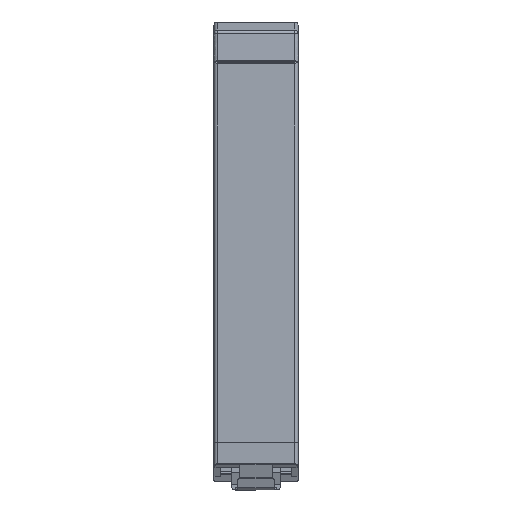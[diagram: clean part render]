
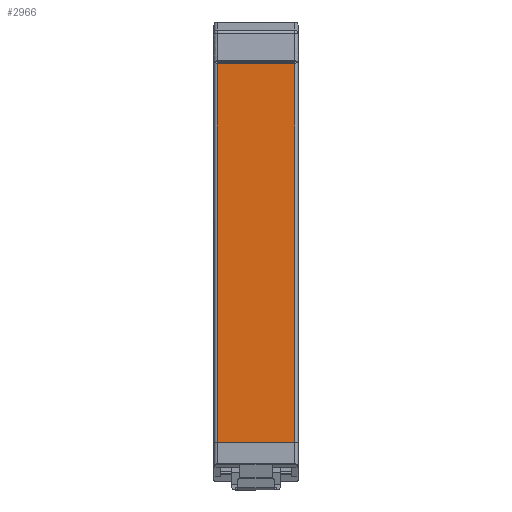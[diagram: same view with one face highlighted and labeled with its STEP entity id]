
A CAD part, front view. The second image highlights one B-rep face of the part: STEP entity #2966.
In plain terms, the highlighted planar face has unit normal (0, -1, 0).
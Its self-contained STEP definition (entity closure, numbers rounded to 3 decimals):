
#63 = ORIENTED_EDGE ( 'NONE', *, *, #3908, .T. ) ;
#213 = VERTEX_POINT ( 'NONE', #6045 ) ;
#306 = CARTESIAN_POINT ( 'NONE',  ( -12.5, -100., 0.8 ) ) ;
#680 = VERTEX_POINT ( 'NONE', #9788 ) ;
#758 = ORIENTED_EDGE ( 'NONE', *, *, #1590, .F. ) ;
#924 = CARTESIAN_POINT ( 'NONE',  ( -11.5, -100., 127.3 ) ) ;
#1590 = EDGE_CURVE ( 'NONE', #10036, #680, #2811, .T. ) ;
#2477 = AXIS2_PLACEMENT_3D ( 'NONE', #306, #3321, #4054 ) ;
#2806 = VECTOR ( 'NONE', #9713, 1000. ) ;
#2811 = LINE ( 'NONE', #8333, #8925 ) ;
#2966 = ADVANCED_FACE ( 'NONE', ( #4981 ), #9844, .T. ) ;
#3058 = LINE ( 'NONE', #6734, #2806 ) ;
#3121 = ORIENTED_EDGE ( 'NONE', *, *, #11565, .T. ) ;
#3321 = DIRECTION ( 'NONE',  ( 0., -1., 0. ) ) ;
#3906 = EDGE_LOOP ( 'NONE', ( #758, #63, #3121, #9774 ) ) ;
#3908 = EDGE_CURVE ( 'NONE', #10036, #10028, #9593, .T. ) ;
#4054 = DIRECTION ( 'NONE',  ( 0., 0., -1. ) ) ;
#4981 = FACE_OUTER_BOUND ( 'NONE', #3906, .T. ) ;
#5580 = LINE ( 'NONE', #924, #7938 ) ;
#5944 = DIRECTION ( 'NONE',  ( -1., 0., 0. ) ) ;
#6045 = CARTESIAN_POINT ( 'NONE',  ( -11.5, -100., 14.041 ) ) ;
#6734 = CARTESIAN_POINT ( 'NONE',  ( 11.5, -100., 14.041 ) ) ;
#6999 = VECTOR ( 'NONE', #5944, 1000. ) ;
#7938 = VECTOR ( 'NONE', #11251, 1000. ) ;
#8001 = EDGE_CURVE ( 'NONE', #680, #213, #3058, .T. ) ;
#8333 = CARTESIAN_POINT ( 'NONE',  ( 11.5, -100., 127.3 ) ) ;
#8395 = DIRECTION ( 'NONE',  ( 0., 0., -1. ) ) ;
#8925 = VECTOR ( 'NONE', #8395, 1000. ) ;
#9593 = LINE ( 'NONE', #10567, #6999 ) ;
#9713 = DIRECTION ( 'NONE',  ( -1., 0., 0. ) ) ;
#9774 = ORIENTED_EDGE ( 'NONE', *, *, #8001, .F. ) ;
#9788 = CARTESIAN_POINT ( 'NONE',  ( 11.5, -100., 14.041 ) ) ;
#9844 = PLANE ( 'NONE',  #2477 ) ;
#10028 = VERTEX_POINT ( 'NONE', #11102 ) ;
#10036 = VERTEX_POINT ( 'NONE', #11157 ) ;
#10567 = CARTESIAN_POINT ( 'NONE',  ( -12.5, -100., 126.8 ) ) ;
#11102 = CARTESIAN_POINT ( 'NONE',  ( -11.5, -100., 126.8 ) ) ;
#11157 = CARTESIAN_POINT ( 'NONE',  ( 11.5, -100., 126.8 ) ) ;
#11251 = DIRECTION ( 'NONE',  ( 0., 0., -1. ) ) ;
#11565 = EDGE_CURVE ( 'NONE', #10028, #213, #5580, .T. ) ;
